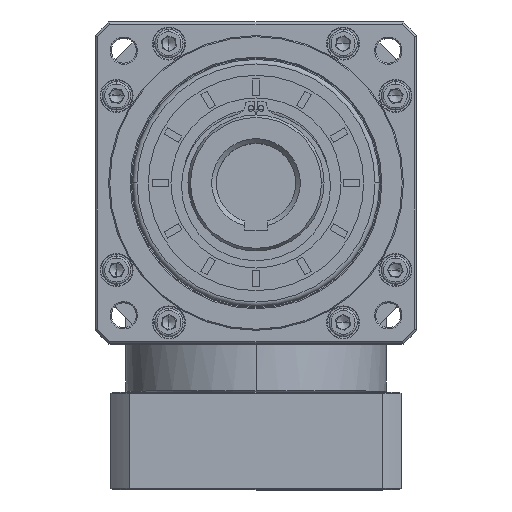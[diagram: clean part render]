
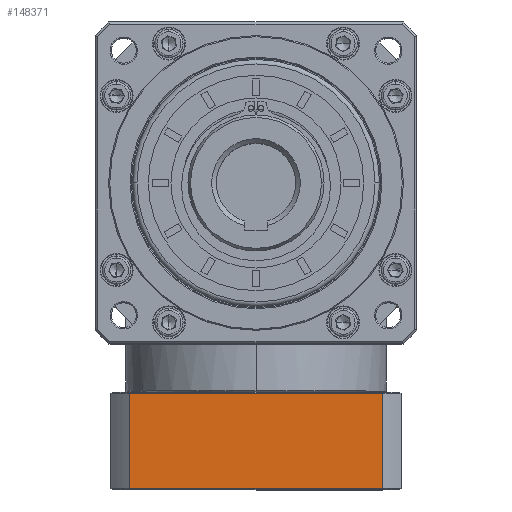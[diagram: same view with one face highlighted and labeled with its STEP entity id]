
A CAD part, top view. The second image highlights one B-rep face of the part: STEP entity #148371.
In plain terms, the highlighted planar face has unit normal (0, 0, 1).
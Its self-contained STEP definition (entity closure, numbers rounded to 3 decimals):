
#1245 = ORIENTED_EDGE ( 'NONE', *, *, #6775, .F. ) ;
#3388 = DIRECTION ( 'NONE',  ( 1., 0., 0. ) ) ;
#6775 = EDGE_CURVE ( 'NONE', #152035, #48085, #31293, .T. ) ;
#10529 = LINE ( 'NONE', #134717, #29691 ) ;
#26883 = DIRECTION ( 'NONE',  ( 0., -1., 0. ) ) ;
#26919 = CARTESIAN_POINT ( 'NONE',  ( -117.176, -110.773, 129.692 ) ) ;
#29691 = VECTOR ( 'NONE', #81756, 1000. ) ;
#31293 = LINE ( 'NONE', #119858, #146381 ) ;
#32803 = DIRECTION ( 'NONE',  ( -1., 0., 0. ) ) ;
#48085 = VERTEX_POINT ( 'NONE', #57051 ) ;
#55131 = LINE ( 'NONE', #110545, #123349 ) ;
#57051 = CARTESIAN_POINT ( 'NONE',  ( -117.176, -152.773, 129.692 ) ) ;
#62878 = FACE_OUTER_BOUND ( 'NONE', #91586, .T. ) ;
#65036 = EDGE_CURVE ( 'NONE', #123739, #152035, #55131, .T. ) ;
#66411 = CARTESIAN_POINT ( 'NONE',  ( -229.051, -152.773, 129.692 ) ) ;
#72328 = VECTOR ( 'NONE', #32803, 1000. ) ;
#80674 = AXIS2_PLACEMENT_3D ( 'NONE', #168076, #112576, #140663 ) ;
#81756 = DIRECTION ( 'NONE',  ( 0., 1., 0. ) ) ;
#89944 = EDGE_CURVE ( 'NONE', #139129, #123739, #10529, .T. ) ;
#91586 = EDGE_LOOP ( 'NONE', ( #1245, #168454, #127589, #105131 ) ) ;
#99022 = PLANE ( 'NONE',  #80674 ) ;
#105131 = ORIENTED_EDGE ( 'NONE', *, *, #162718, .F. ) ;
#110545 = CARTESIAN_POINT ( 'NONE',  ( -237.114, -110.773, 129.692 ) ) ;
#112576 = DIRECTION ( 'NONE',  ( 0., 0., -1. ) ) ;
#113820 = CARTESIAN_POINT ( 'NONE',  ( -237.114, -152.773, 129.692 ) ) ;
#119858 = CARTESIAN_POINT ( 'NONE',  ( -117.176, 142.141, 129.692 ) ) ;
#123349 = VECTOR ( 'NONE', #3388, 1000. ) ;
#123739 = VERTEX_POINT ( 'NONE', #172731 ) ;
#127589 = ORIENTED_EDGE ( 'NONE', *, *, #89944, .F. ) ;
#134717 = CARTESIAN_POINT ( 'NONE',  ( -229.051, -153.273, 129.692 ) ) ;
#139129 = VERTEX_POINT ( 'NONE', #66411 ) ;
#140663 = DIRECTION ( 'NONE',  ( -1., 0., 0. ) ) ;
#146381 = VECTOR ( 'NONE', #26883, 1000. ) ;
#148371 = ADVANCED_FACE ( 'NONE', ( #62878 ), #99022, .F. ) ;
#151112 = LINE ( 'NONE', #113820, #72328 ) ;
#152035 = VERTEX_POINT ( 'NONE', #26919 ) ;
#162718 = EDGE_CURVE ( 'NONE', #48085, #139129, #151112, .T. ) ;
#168076 = CARTESIAN_POINT ( 'NONE',  ( -237.114, -153.273, 129.692 ) ) ;
#168454 = ORIENTED_EDGE ( 'NONE', *, *, #65036, .F. ) ;
#172731 = CARTESIAN_POINT ( 'NONE',  ( -229.051, -110.773, 129.692 ) ) ;
